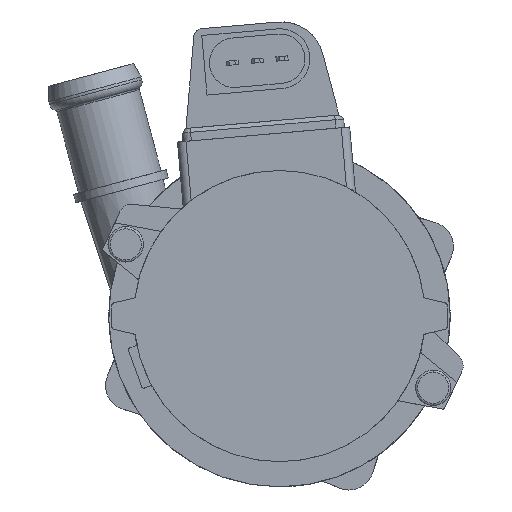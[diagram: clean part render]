
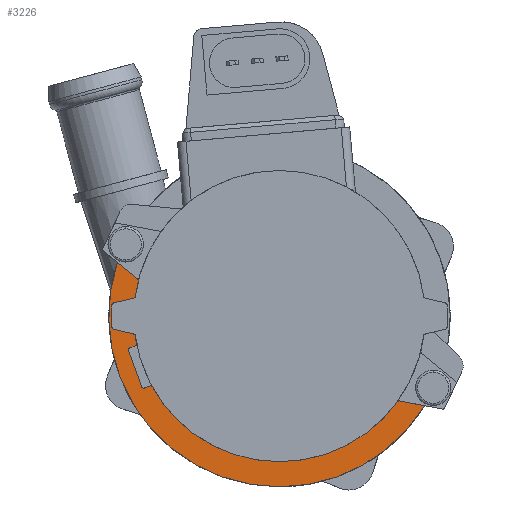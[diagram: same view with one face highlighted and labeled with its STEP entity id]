
A CAD part, front view. The second image highlights one B-rep face of the part: STEP entity #3226.
In plain terms, the highlighted planar face has unit normal (0, -1, 0).
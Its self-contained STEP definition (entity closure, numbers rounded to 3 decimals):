
#396 = CARTESIAN_POINT ( 'NONE',  ( 34.041, 43.3, -21.006 ) ) ;
#590 = DIRECTION ( 'NONE',  ( 0., 0., 1. ) ) ;
#840 = CARTESIAN_POINT ( 'NONE',  ( 0., 43.3, -34.1 ) ) ;
#1388 = CIRCLE ( 'NONE', #18378, 40. ) ;
#1440 = DIRECTION ( 'NONE',  ( 0., 0., 1. ) ) ;
#1472 = CIRCLE ( 'NONE', #7816, 34.1 ) ;
#1542 = VECTOR ( 'NONE', #3724, 1000. ) ;
#1577 = VERTEX_POINT ( 'NONE', #16771 ) ;
#1678 = DIRECTION ( 'NONE',  ( -0.342, 0., 0.94 ) ) ;
#1723 = CARTESIAN_POINT ( 'NONE',  ( 27.74, 43.3, -19.832 ) ) ;
#2043 = EDGE_CURVE ( 'NONE', #18557, #15909, #13838, .T. ) ;
#2459 = ORIENTED_EDGE ( 'NONE', *, *, #5813, .T. ) ;
#2629 = ORIENTED_EDGE ( 'NONE', *, *, #6571, .F. ) ;
#2776 = VERTEX_POINT ( 'NONE', #3937 ) ;
#2846 = EDGE_CURVE ( 'NONE', #1577, #4349, #1472, .T. ) ;
#3226 = ADVANCED_FACE ( 'NONE', ( #3613 ), #5188, .F. ) ;
#3292 = CARTESIAN_POINT ( 'NONE',  ( 27.556, 43.3, -20.087 ) ) ;
#3519 = VECTOR ( 'NONE', #6299, 1000. ) ;
#3613 = FACE_OUTER_BOUND ( 'NONE', #19695, .T. ) ;
#3724 = DIRECTION ( 'NONE',  ( -0.94, 0., -0.342 ) ) ;
#3786 = AXIS2_PLACEMENT_3D ( 'NONE', #16750, #13699, #1440 ) ;
#3831 = ORIENTED_EDGE ( 'NONE', *, *, #8666, .T. ) ;
#3937 = CARTESIAN_POINT ( 'NONE',  ( -37.972, 43.3, 12.574 ) ) ;
#4318 = CARTESIAN_POINT ( 'NONE',  ( -30.219, 43.3, -16.852 ) ) ;
#4349 = VERTEX_POINT ( 'NONE', #6427 ) ;
#4421 = DIRECTION ( 'NONE',  ( 0., 0., 1. ) ) ;
#4603 = CARTESIAN_POINT ( 'NONE',  ( 28.052, 43.3, -19.89 ) ) ;
#4609 = ORIENTED_EDGE ( 'NONE', *, *, #2043, .T. ) ;
#4632 = VERTEX_POINT ( 'NONE', #840 ) ;
#4645 = VECTOR ( 'NONE', #4924, 1000. ) ;
#4924 = DIRECTION ( 'NONE',  ( 0.94, 0., 0.342 ) ) ;
#5018 = DIRECTION ( 'NONE',  ( 0., -1., 0. ) ) ;
#5188 = PLANE ( 'NONE',  #9402 ) ;
#5231 = CIRCLE ( 'NONE', #18482, 0.5 ) ;
#5233 = ORIENTED_EDGE ( 'NONE', *, *, #7856, .T. ) ;
#5276 = VERTEX_POINT ( 'NONE', #13824 ) ;
#5593 = DIRECTION ( 'NONE',  ( 0., -1., 0. ) ) ;
#5806 = ORIENTED_EDGE ( 'NONE', *, *, #7305, .T. ) ;
#5813 = EDGE_CURVE ( 'NONE', #6264, #11588, #15540, .T. ) ;
#6016 = AXIS2_PLACEMENT_3D ( 'NONE', #18820, #5018, #15967 ) ;
#6018 = EDGE_CURVE ( 'NONE', #6396, #16724, #10943, .T. ) ;
#6264 = VERTEX_POINT ( 'NONE', #7318 ) ;
#6299 = DIRECTION ( 'NONE',  ( 0.772, 0., -0.635 ) ) ;
#6396 = VERTEX_POINT ( 'NONE', #4603 ) ;
#6427 = CARTESIAN_POINT ( 'NONE',  ( -33.1, 43.3, 8.198 ) ) ;
#6541 = ORIENTED_EDGE ( 'NONE', *, *, #2846, .T. ) ;
#6557 = VECTOR ( 'NONE', #12506, 1000. ) ;
#6571 = EDGE_CURVE ( 'NONE', #6396, #15834, #13566, .T. ) ;
#6636 = DIRECTION ( 'NONE',  ( 0., 0., 1. ) ) ;
#6793 = DIRECTION ( 'NONE',  ( 0., 1., 0. ) ) ;
#6922 = CARTESIAN_POINT ( 'NONE',  ( -33.981, 43.3, -6.515 ) ) ;
#6980 = CIRCLE ( 'NONE', #17580, 0.5 ) ;
#7037 = EDGE_CURVE ( 'NONE', #4349, #17149, #17658, .T. ) ;
#7272 = CIRCLE ( 'NONE', #10888, 34.1 ) ;
#7305 = EDGE_CURVE ( 'NONE', #15909, #6264, #6980, .T. ) ;
#7318 = CARTESIAN_POINT ( 'NONE',  ( -32.29, 43.3, -16.541 ) ) ;
#7666 = ORIENTED_EDGE ( 'NONE', *, *, #8855, .F. ) ;
#7816 = AXIS2_PLACEMENT_3D ( 'NONE', #10764, #18344, #4421 ) ;
#7856 = EDGE_CURVE ( 'NONE', #5276, #18557, #5231, .T. ) ;
#8234 = CARTESIAN_POINT ( 'NONE',  ( -34.898, 43.3, -7.913 ) ) ;
#8629 = CARTESIAN_POINT ( 'NONE',  ( -30.39, 43.3, -16.382 ) ) ;
#8666 = EDGE_CURVE ( 'NONE', #16724, #4632, #16376, .T. ) ;
#8784 = LINE ( 'NONE', #16003, #4645 ) ;
#8795 = DIRECTION ( 'NONE',  ( 0., 0., 1. ) ) ;
#8823 = DIRECTION ( 'NONE',  ( 0., 1., 0. ) ) ;
#8855 = EDGE_CURVE ( 'NONE', #13496, #2776, #1388, .T. ) ;
#9086 = CARTESIAN_POINT ( 'NONE',  ( -33.268, 43.3, 8.704 ) ) ;
#9230 = DIRECTION ( 'NONE',  ( 0., 0., 1. ) ) ;
#9235 = DIRECTION ( 'NONE',  ( 0., 1., 0. ) ) ;
#9279 = CARTESIAN_POINT ( 'NONE',  ( 0., 43.3, -40. ) ) ;
#9365 = CARTESIAN_POINT ( 'NONE',  ( 0., 43.3, 0. ) ) ;
#9402 = AXIS2_PLACEMENT_3D ( 'NONE', #9757, #18934, #12774 ) ;
#9706 = EDGE_CURVE ( 'NONE', #16768, #1577, #15372, .T. ) ;
#9757 = CARTESIAN_POINT ( 'NONE',  ( 0., 43.3, 0. ) ) ;
#9784 = AXIS2_PLACEMENT_3D ( 'NONE', #10835, #18470, #9230 ) ;
#9847 = CARTESIAN_POINT ( 'NONE',  ( 0., 43.3, 0. ) ) ;
#9941 = CIRCLE ( 'NONE', #13332, 0.5 ) ;
#10359 = DIRECTION ( 'NONE',  ( 0., 0., 1. ) ) ;
#10731 = AXIS2_PLACEMENT_3D ( 'NONE', #18474, #9235, #19881 ) ;
#10764 = CARTESIAN_POINT ( 'NONE',  ( 0., 43.3, 0. ) ) ;
#10835 = CARTESIAN_POINT ( 'NONE',  ( -33.585, 43.3, 8.318 ) ) ;
#10888 = AXIS2_PLACEMENT_3D ( 'NONE', #9847, #12925, #590 ) ;
#10943 = CIRCLE ( 'NONE', #6016, 0.5 ) ;
#11193 = EDGE_CURVE ( 'NONE', #13669, #16768, #8784, .T. ) ;
#11588 = VERTEX_POINT ( 'NONE', #12160 ) ;
#11668 = DIRECTION ( 'NONE',  ( 0., -1., 0. ) ) ;
#11840 = CIRCLE ( 'NONE', #3786, 40. ) ;
#11867 = ORIENTED_EDGE ( 'NONE', *, *, #15097, .F. ) ;
#11884 = EDGE_CURVE ( 'NONE', #11588, #13669, #9941, .T. ) ;
#11886 = EDGE_CURVE ( 'NONE', #4632, #5276, #7272, .T. ) ;
#12160 = CARTESIAN_POINT ( 'NONE',  ( -35.368, 43.3, -8.084 ) ) ;
#12506 = DIRECTION ( 'NONE',  ( 0.983, 0., -0.183 ) ) ;
#12524 = DIRECTION ( 'NONE',  ( 0., 1., 0. ) ) ;
#12774 = DIRECTION ( 'NONE',  ( 0., 0., 1. ) ) ;
#12890 = EDGE_CURVE ( 'NONE', #15834, #13496, #11840, .T. ) ;
#12925 = DIRECTION ( 'NONE',  ( 0., 1., 0. ) ) ;
#13239 = CARTESIAN_POINT ( 'NONE',  ( -35.069, 43.3, -7.443 ) ) ;
#13321 = ORIENTED_EDGE ( 'NONE', *, *, #11884, .T. ) ;
#13332 = AXIS2_PLACEMENT_3D ( 'NONE', #8234, #6793, #16110 ) ;
#13442 = ORIENTED_EDGE ( 'NONE', *, *, #12890, .F. ) ;
#13496 = VERTEX_POINT ( 'NONE', #9279 ) ;
#13546 = ORIENTED_EDGE ( 'NONE', *, *, #6018, .T. ) ;
#13566 = LINE ( 'NONE', #1723, #6557 ) ;
#13669 = VERTEX_POINT ( 'NONE', #13239 ) ;
#13699 = DIRECTION ( 'NONE',  ( 0., 1., 0. ) ) ;
#13824 = CARTESIAN_POINT ( 'NONE',  ( -29.782, 43.3, -16.608 ) ) ;
#13838 = LINE ( 'NONE', #14506, #1542 ) ;
#13989 = CARTESIAN_POINT ( 'NONE',  ( -9.157, 43.3, -11.131 ) ) ;
#14137 = CARTESIAN_POINT ( 'NONE',  ( -33.829, 43.3, -12.313 ) ) ;
#14234 = AXIS2_PLACEMENT_3D ( 'NONE', #6922, #11668, #19214 ) ;
#14506 = CARTESIAN_POINT ( 'NONE',  ( 1.71, 43.3, -4.698 ) ) ;
#14568 = ORIENTED_EDGE ( 'NONE', *, *, #7037, .T. ) ;
#14573 = VECTOR ( 'NONE', #1678, 1000. ) ;
#15097 = EDGE_CURVE ( 'NONE', #2776, #17149, #17303, .T. ) ;
#15372 = CIRCLE ( 'NONE', #14234, 0.5 ) ;
#15540 = LINE ( 'NONE', #14137, #14573 ) ;
#15834 = VERTEX_POINT ( 'NONE', #396 ) ;
#15847 = ORIENTED_EDGE ( 'NONE', *, *, #9706, .T. ) ;
#15909 = VERTEX_POINT ( 'NONE', #19369 ) ;
#15967 = DIRECTION ( 'NONE',  ( 0., 0., 1. ) ) ;
#16003 = CARTESIAN_POINT ( 'NONE',  ( -1.71, 43.3, 4.698 ) ) ;
#16110 = DIRECTION ( 'NONE',  ( 0., 0., 1. ) ) ;
#16376 = CIRCLE ( 'NONE', #10731, 34.1 ) ;
#16620 = ORIENTED_EDGE ( 'NONE', *, *, #11193, .T. ) ;
#16724 = VERTEX_POINT ( 'NONE', #3292 ) ;
#16750 = CARTESIAN_POINT ( 'NONE',  ( 0., 43.3, 0. ) ) ;
#16768 = VERTEX_POINT ( 'NONE', #17213 ) ;
#16771 = CARTESIAN_POINT ( 'NONE',  ( -33.49, 43.3, -6.421 ) ) ;
#17149 = VERTEX_POINT ( 'NONE', #9086 ) ;
#17213 = CARTESIAN_POINT ( 'NONE',  ( -33.81, 43.3, -6.985 ) ) ;
#17303 = LINE ( 'NONE', #13989, #3519 ) ;
#17580 = AXIS2_PLACEMENT_3D ( 'NONE', #19339, #8823, #10359 ) ;
#17658 = CIRCLE ( 'NONE', #9784, 0.5 ) ;
#18344 = DIRECTION ( 'NONE',  ( 0., 1., 0. ) ) ;
#18378 = AXIS2_PLACEMENT_3D ( 'NONE', #9365, #12524, #6636 ) ;
#18470 = DIRECTION ( 'NONE',  ( 0., -1., 0. ) ) ;
#18474 = CARTESIAN_POINT ( 'NONE',  ( 0., 43.3, 0. ) ) ;
#18482 = AXIS2_PLACEMENT_3D ( 'NONE', #4318, #5593, #8795 ) ;
#18557 = VERTEX_POINT ( 'NONE', #8629 ) ;
#18820 = CARTESIAN_POINT ( 'NONE',  ( 27.96, 43.3, -20.381 ) ) ;
#18934 = DIRECTION ( 'NONE',  ( 0., 1., 0. ) ) ;
#19142 = ORIENTED_EDGE ( 'NONE', *, *, #11886, .T. ) ;
#19214 = DIRECTION ( 'NONE',  ( 0., 0., 1. ) ) ;
#19339 = CARTESIAN_POINT ( 'NONE',  ( -31.82, 43.3, -16.37 ) ) ;
#19369 = CARTESIAN_POINT ( 'NONE',  ( -31.649, 43.3, -16.84 ) ) ;
#19695 = EDGE_LOOP ( 'NONE', ( #2629, #13546, #3831, #19142, #5233, #4609, #5806, #2459, #13321, #16620, #15847, #6541, #14568, #11867, #7666, #13442 ) ) ;
#19881 = DIRECTION ( 'NONE',  ( 0., 0., 1. ) ) ;
